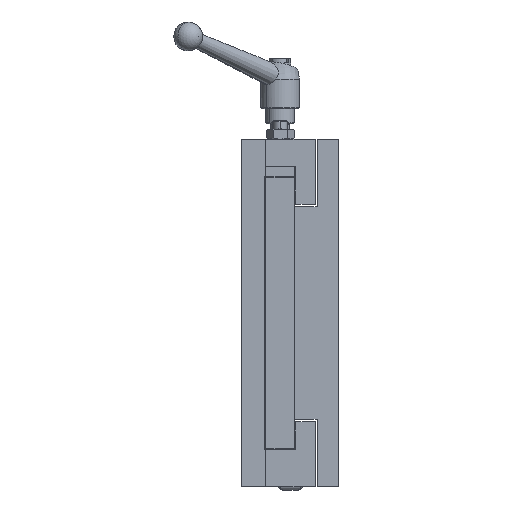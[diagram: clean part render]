
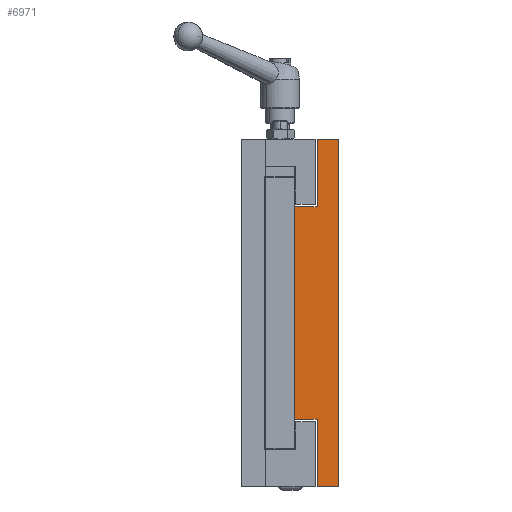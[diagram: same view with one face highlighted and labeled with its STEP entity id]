
A CAD part, left-side view. The second image highlights one B-rep face of the part: STEP entity #6971.
In plain terms, the highlighted planar face has unit normal (-1, 0, 0).
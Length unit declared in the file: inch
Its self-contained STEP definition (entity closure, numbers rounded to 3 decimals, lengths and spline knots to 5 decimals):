
#805 = VECTOR ( 'NONE', #3131, 39.37008 ) ;
#814 = VECTOR ( 'NONE', #3164, 39.37008 ) ;
#815 = VECTOR ( 'NONE', #3161, 39.37008 ) ;
#817 = VECTOR ( 'NONE', #3167, 39.37008 ) ;
#818 = VECTOR ( 'NONE', #3169, 39.37008 ) ;
#819 = VECTOR ( 'NONE', #3172, 39.37008 ) ;
#820 = VECTOR ( 'NONE', #3176, 39.37008 ) ;
#821 = VECTOR ( 'NONE', #3179, 39.37008 ) ;
#1893 = PLANE ( 'NONE',  #5448 ) ;
#1895 = CARTESIAN_POINT ( 'NONE',  ( 0., 0., 4.5 ) ) ;
#1899 = FACE_OUTER_BOUND ( 'NONE', #8599, .T. ) ;
#1901 = DIRECTION ( 'NONE',  ( 1., 0., 0. ) ) ;
#1902 = DIRECTION ( 'NONE',  ( 0., 0., -1. ) ) ;
#2470 = VERTEX_POINT ( 'NONE', #8992 ) ;
#3125 = CARTESIAN_POINT ( 'NONE',  ( 0., 1.125, 4.5 ) ) ;
#3126 = LINE ( 'NONE', #3125, #805 ) ;
#3131 = DIRECTION ( 'NONE',  ( 0., 0., 1. ) ) ;
#3154 = LINE ( 'NONE', #3159, #815 ) ;
#3156 = CARTESIAN_POINT ( 'NONE',  ( 0., 0.54688, -4.5 ) ) ;
#3157 = LINE ( 'NONE', #3156, #814 ) ;
#3159 = CARTESIAN_POINT ( 'NONE',  ( 0., 1.125, -2.75 ) ) ;
#3160 = CARTESIAN_POINT ( 'NONE',  ( 0., 1.125, -4.5 ) ) ;
#3161 = DIRECTION ( 'NONE',  ( 0., -1., 0. ) ) ;
#3162 = LINE ( 'NONE', #3160, #817 ) ;
#3163 = CARTESIAN_POINT ( 'NONE',  ( 0., 0., 4.5 ) ) ;
#3164 = DIRECTION ( 'NONE',  ( 0., 0., -1. ) ) ;
#3165 = LINE ( 'NONE', #3163, #818 ) ;
#3166 = CARTESIAN_POINT ( 'NONE',  ( 0., 1.125, 4.5 ) ) ;
#3167 = DIRECTION ( 'NONE',  ( 0., 1., 0. ) ) ;
#3168 = LINE ( 'NONE', #3166, #819 ) ;
#3169 = DIRECTION ( 'NONE',  ( 0., 0., -1. ) ) ;
#3170 = CARTESIAN_POINT ( 'NONE',  ( 0., 0.54688, 4.5 ) ) ;
#3171 = LINE ( 'NONE', #3170, #820 ) ;
#3172 = DIRECTION ( 'NONE',  ( 0., -1., 0. ) ) ;
#3174 = LINE ( 'NONE', #3177, #821 ) ;
#3176 = DIRECTION ( 'NONE',  ( 0., 0., -1. ) ) ;
#3177 = CARTESIAN_POINT ( 'NONE',  ( 0., 1.125, 2.75 ) ) ;
#3179 = DIRECTION ( 'NONE',  ( 0., 1., 0. ) ) ;
#3343 = CARTESIAN_POINT ( 'NONE',  ( 0., 1.125, -2.75 ) ) ;
#3348 = CARTESIAN_POINT ( 'NONE',  ( 0., 1.125, 2.75 ) ) ;
#3350 = CARTESIAN_POINT ( 'NONE',  ( 0., 0., 4.5 ) ) ;
#3353 = CARTESIAN_POINT ( 'NONE',  ( 0., 0.54688, -2.75 ) ) ;
#3356 = CARTESIAN_POINT ( 'NONE',  ( 0., 0.54688, 4.5 ) ) ;
#3357 = CARTESIAN_POINT ( 'NONE',  ( 0., 0.54688, -4.5 ) ) ;
#3361 = CARTESIAN_POINT ( 'NONE',  ( 0., 0.54688, 2.75 ) ) ;
#5448 = AXIS2_PLACEMENT_3D ( 'NONE', #1895, #1901, #1902 ) ;
#6971 = ADVANCED_FACE ( 'NONE', ( #1899 ), #1893, .F. ) ;
#7318 = EDGE_CURVE ( 'NONE', #8457, #8462, #3126, .T. ) ;
#7341 = EDGE_CURVE ( 'NONE', #8457, #8467, #3154, .T. ) ;
#7343 = EDGE_CURVE ( 'NONE', #8467, #8471, #3157, .T. ) ;
#7346 = EDGE_CURVE ( 'NONE', #2470, #8471, #3162, .T. ) ;
#7348 = EDGE_CURVE ( 'NONE', #8464, #2470, #3165, .T. ) ;
#7350 = EDGE_CURVE ( 'NONE', #8470, #8464, #3168, .T. ) ;
#7353 = EDGE_CURVE ( 'NONE', #8470, #8475, #3171, .T. ) ;
#7355 = EDGE_CURVE ( 'NONE', #8475, #8462, #3174, .T. ) ;
#7386 = ORIENTED_EDGE ( 'NONE', *, *, #7341, .T. ) ;
#7387 = ORIENTED_EDGE ( 'NONE', *, *, #7343, .T. ) ;
#7389 = ORIENTED_EDGE ( 'NONE', *, *, #7346, .F. ) ;
#7391 = ORIENTED_EDGE ( 'NONE', *, *, #7348, .F. ) ;
#7393 = ORIENTED_EDGE ( 'NONE', *, *, #7350, .F. ) ;
#7394 = ORIENTED_EDGE ( 'NONE', *, *, #7353, .T. ) ;
#7396 = ORIENTED_EDGE ( 'NONE', *, *, #7355, .T. ) ;
#7398 = ORIENTED_EDGE ( 'NONE', *, *, #7318, .F. ) ;
#8457 = VERTEX_POINT ( 'NONE', #3343 ) ;
#8462 = VERTEX_POINT ( 'NONE', #3348 ) ;
#8464 = VERTEX_POINT ( 'NONE', #3350 ) ;
#8467 = VERTEX_POINT ( 'NONE', #3353 ) ;
#8470 = VERTEX_POINT ( 'NONE', #3356 ) ;
#8471 = VERTEX_POINT ( 'NONE', #3357 ) ;
#8475 = VERTEX_POINT ( 'NONE', #3361 ) ;
#8599 = EDGE_LOOP ( 'NONE', ( #7386, #7387, #7389, #7391, #7393, #7394, #7396, #7398 ) ) ;
#8992 = CARTESIAN_POINT ( 'NONE',  ( 0., 0., -4.5 ) ) ;
